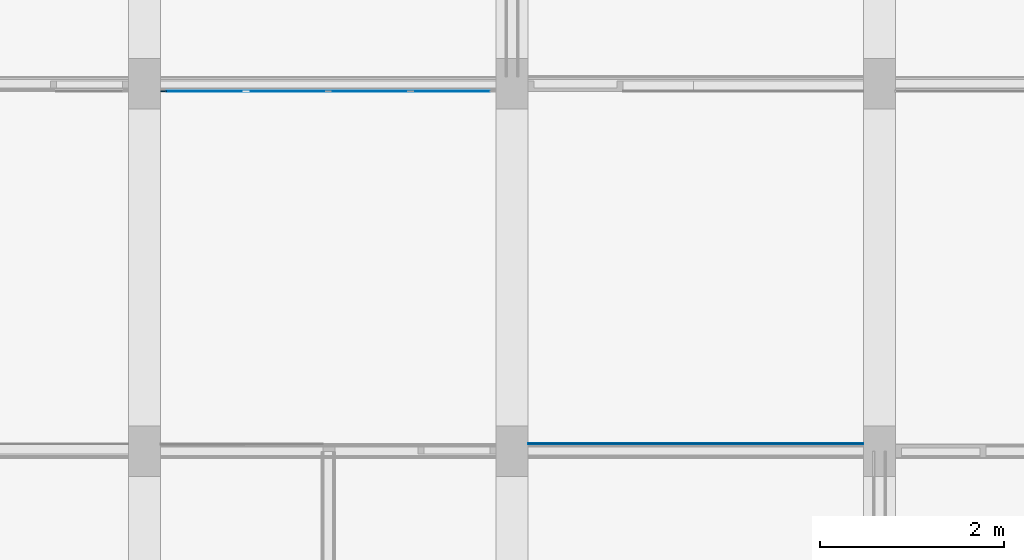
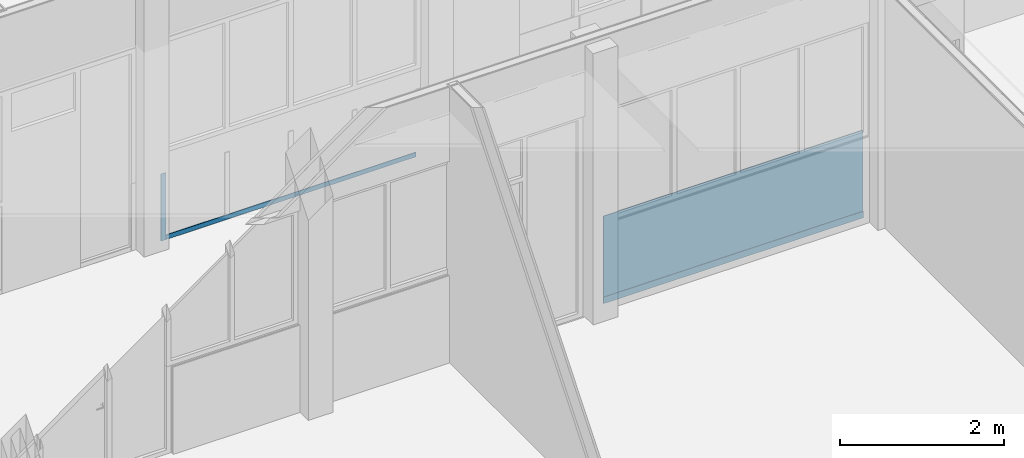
# One storey, part 25 of 94: 4 walls.
"""IFC2X3 building model written with IfcOpenShell, lengths in millimetres."""

from ifc_helpers import new_model, entity, si_unit, converted_unit, derived_unit, money_unit, direction, frame, origin_with_axes, place, context, subcontext, project, spatial, faceted_brep, material, type_object, element, save


model = new_model("IFC2X3")

# Units and contexts
model_context = context("Model", 3, precision=0.01, world=origin_with_axes(), true_north=direction((0.0, 1.0)))
body_context = subcontext(model_context, "Body", "Model", "MODEL_VIEW")
ifc_project = project(units=[si_unit("LENGTHUNIT", "METRE", prefix="MILLI"), si_unit("AREAUNIT", "SQUARE_METRE"), si_unit("VOLUMEUNIT", "CUBIC_METRE"), converted_unit("PLANEANGLEUNIT", "DEGREE", entity("IfcPlaneAngleMeasure", 0.0174532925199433), si_unit("PLANEANGLEUNIT", "RADIAN"), dimensions=[0, 0, 0, 0, 0, 0, 0]), money_unit("EUR"), converted_unit("TIMEUNIT", "Year", entity("IfcTimeMeasure", 31557600.0), si_unit("TIMEUNIT", "SECOND"), dimensions=[0, 0, 1, 0, 0, 0, 0]), si_unit("MASSUNIT", "GRAM", prefix="KILO"), si_unit("THERMODYNAMICTEMPERATUREUNIT", "DEGREE_CELSIUS"), si_unit("LUMINOUSINTENSITYUNIT", "LUMEN"), si_unit("ENERGYUNIT", "JOULE", prefix="MEGA"), derived_unit("THERMALCONDUCTANCEUNIT", [(si_unit("POWERUNIT", "WATT"), 1), (si_unit("LENGTHUNIT", "METRE"), -1), (si_unit("THERMODYNAMICTEMPERATUREUNIT", "KELVIN"), -1)]), derived_unit("SPECIFICHEATCAPACITYUNIT", [(si_unit("ENERGYUNIT", "JOULE"), 1), (si_unit("MASSUNIT", "GRAM", prefix="KILO"), -1), (si_unit("THERMODYNAMICTEMPERATUREUNIT", "KELVIN"), -1)]), derived_unit("MASSDENSITYUNIT", [(si_unit("MASSUNIT", "GRAM", prefix="KILO"), 1), (si_unit("VOLUMEUNIT", "CUBIC_METRE"), -1)])], contexts=[model_context])

# Site, building, storey
site_placement = place(None, origin_with_axes())
site = spatial("IfcSite", under=ifc_project, at=site_placement, Name="<site naam>", CompositionType="ELEMENT")
building_placement = place(site_placement, origin_with_axes())
building = spatial("IfcBuilding", under=site, at=building_placement, Name="<Naam gebouw>", CompositionType="ELEMENT")
storey_placement = place(building_placement, frame((0.0, 0.0, 4250.0), z_axis=(0.0, 0.0, 1.0), x_axis=(1.0, 0.0, 0.0)))
storey = spatial("IfcBuildingStorey", under=building, at=storey_placement, Name="01 1e verdieping", CompositionType="ELEMENT", Elevation=4250.0)

# Walls
ifc_material = material(Name="ALG - BUITENAFWERKING")
wall_type_1 = type_object("IfcWallType", Name="ALG - BUITENAFWERKING 10", PredefinedType="NOTDEFINED")
wall_1_placement = place(storey_placement, frame((32175.00010281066, 11925.00000000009, 0.0), z_axis=(0.0, 0.0, 1.0), x_axis=(1.0, 0.0, 0.0)))
element("IfcWall", 1, at=wall_1_placement, inside=storey, type_object=wall_type_1, material=ifc_material, Name="42_Binnenwand_ALG", context=body_context, shape_type="Brep", body=[
    faceted_brep([(67.00000000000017, -9.999999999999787, 3.000000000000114), (67.00000000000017, -2.908502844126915, 3.000000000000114), (67.00000000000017, -2.908502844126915, 0.0), (67.00000000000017, 0.0, 0.0), (67.00000000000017, 0.0, 998.9999999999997), (67.00000000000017, -9.999999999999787, 998.9999999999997), (-0.0001028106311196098, -2.908502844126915, 3.000000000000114), (-0.0001028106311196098, -9.999999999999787, 3.000000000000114), (-0.0001028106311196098, -2.908502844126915, 0.0), (0.0, 0.0, 0.0), (0.0, 0.0, 998.9999999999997), (0.0, -9.999999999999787, 998.9999999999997)], [[[0, 1, 2, 3, 4, 5]], [[6, 1, 0, 7]], [[8, 2, 1, 6]], [[3, 2, 8, 9]], [[9, 10, 4, 3]], [[10, 11, 5, 4]], [[11, 7, 0, 5]], [[8, 6, 7, 11, 10, 9]]]),
])
wall_2_placement = place(storey_placement, frame((32242.99996298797, 11925.00000000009, 3.000000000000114), z_axis=(0.0, 0.0, 1.0), x_axis=(1.0, 0.0, 0.0)))
element("IfcWall", 2, at=wall_2_placement, inside=storey, type_object=wall_type_1, material=ifc_material, Name="42_Binnenwand_ALG", context=body_context, shape_type="Brep", body=[
    faceted_brep([(0.0, 0.0, 0.0), (3514.000000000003, 0.0, 0.0), (3514.000000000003, -9.999999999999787, 0.0), (0.0, -9.999999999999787, 0.0), (0.0, 0.0, 67.00000000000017), (3514.000000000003, 0.0, 67.00000000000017), (3514.000000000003, -9.999999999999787, 67.00000000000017), (0.0, -9.999999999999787, 67.00000000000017)], [[[0, 1, 2, 3]], [[4, 5, 1, 0]], [[2, 1, 5, 6]], [[3, 2, 6, 7]], [[4, 0, 3, 7]], [[7, 6, 5, 4]]]),
])
wall_3_placement = place(storey_placement, frame((39824.93390346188, 8080.000000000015, 99.99999999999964), z_axis=(0.0, 0.0, 1.0), x_axis=(-1.0, 0.0, 0.0)))
element("IfcWall", 3, at=wall_3_placement, inside=storey, type_object=wall_type_1, material=ifc_material, Name="42_Binnenwand_ALG", context=body_context, shape_type="Brep", body=[
    faceted_brep([(0.0, 0.0, 0.0), (3649.933903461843, 0.0, 0.0), (3649.933903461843, -9.999999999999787, 0.0), (0.0, -9.999999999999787, 0.0), (0.0, 0.0, 1200.000000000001), (3649.933903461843, 0.0, 1200.000000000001), (3649.933903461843, -9.999999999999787, 1200.000000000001), (0.0, -9.999999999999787, 1200.000000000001)], [[[0, 1, 2, 3]], [[4, 5, 1, 0]], [[2, 1, 5, 6]], [[3, 2, 6, 7]], [[4, 0, 3, 7]], [[7, 6, 5, 4]]]),
])
wall_type_2 = type_object("IfcWallType", Name="ALG - BUITENAFWERKING 20", PredefinedType="NOTDEFINED")
wall_4_placement = place(storey_placement, frame((36175.00000000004, 8075.000000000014, 0.0), z_axis=(0.0, 0.0, 1.0), x_axis=(1.0, 0.0, 0.0)))
element("IfcWall", 4, at=wall_4_placement, inside=storey, type_object=wall_type_2, material=ifc_material, Name="42_Binnenwand_ALG", context=body_context, shape_type="Brep", body=[
    faceted_brep([(3649.933903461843, 0.0, 99.99999999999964), (3649.933903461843, 0.0, 3.000000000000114), (3649.933903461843, 19.99999999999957, 3.000000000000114), (3649.933903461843, 19.99999999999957, 99.99999999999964), (0.0, 0.0, 99.99999999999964), (0.0, 0.0, 3.000000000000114), (0.0, 19.99999999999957, 3.000000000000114), (0.0, 19.99999999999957, 99.99999999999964)], [[[0, 1, 2, 3]], [[4, 5, 1, 0]], [[5, 6, 2, 1]], [[3, 2, 6, 7]], [[7, 4, 0, 3]], [[7, 6, 5, 4]]]),
])

save(model, "model.ifc")
